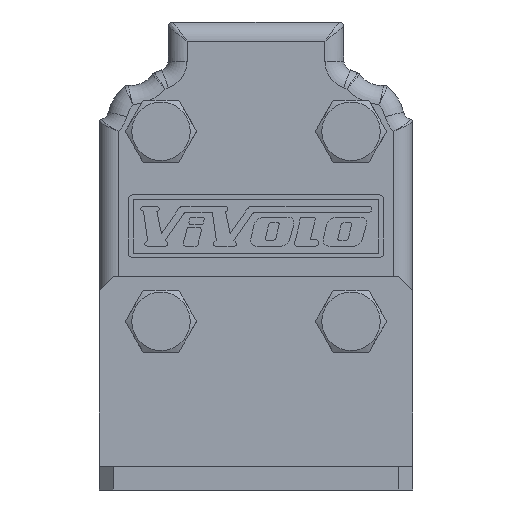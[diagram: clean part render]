
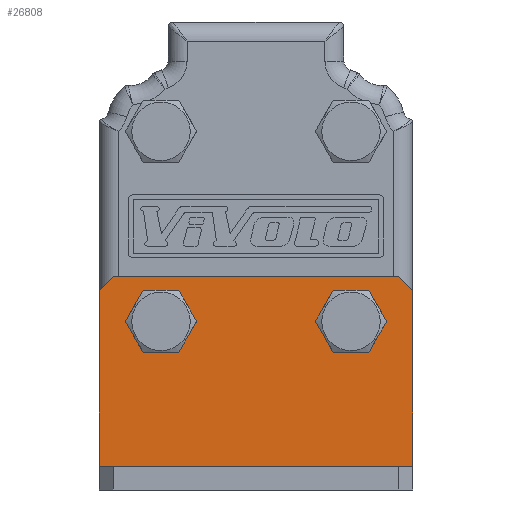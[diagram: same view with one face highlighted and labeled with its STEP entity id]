
A CAD part, front view. The second image highlights one B-rep face of the part: STEP entity #26808.
In plain terms, the highlighted planar face has unit normal (0, -1, 0).
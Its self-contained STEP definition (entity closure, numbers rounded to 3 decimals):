
#859=CIRCLE('',#27995,6.);
#860=CIRCLE('',#27997,6.);
#2253=LINE('',#37771,#3881);
#2260=LINE('',#37794,#3888);
#2261=LINE('',#37796,#3889);
#2262=LINE('',#37798,#3890);
#2263=LINE('',#37800,#3891);
#2264=LINE('',#37802,#3892);
#3881=VECTOR('',#30881,1000.);
#3888=VECTOR('',#30900,1000.);
#3889=VECTOR('',#30901,1000.);
#3890=VECTOR('',#30902,1000.);
#3891=VECTOR('',#30903,1000.);
#3892=VECTOR('',#30904,1000.);
#6101=ORIENTED_EDGE('',*,*,#11458,.T.);
#6102=ORIENTED_EDGE('',*,*,#11457,.T.);
#6103=ORIENTED_EDGE('',*,*,#11520,.F.);
#6104=ORIENTED_EDGE('',*,*,#11509,.T.);
#6105=ORIENTED_EDGE('',*,*,#11521,.F.);
#6106=ORIENTED_EDGE('',*,*,#11522,.F.);
#6107=ORIENTED_EDGE('',*,*,#11523,.F.);
#6108=ORIENTED_EDGE('',*,*,#11524,.F.);
#11457=EDGE_CURVE('',#14251,#14251,#859,.T.);
#11458=EDGE_CURVE('',#14252,#14252,#860,.T.);
#11509=EDGE_CURVE('',#14281,#14282,#2253,.T.);
#11520=EDGE_CURVE('',#14281,#14291,#2260,.T.);
#11521=EDGE_CURVE('',#14292,#14282,#2261,.T.);
#11522=EDGE_CURVE('',#14293,#14292,#2262,.T.);
#11523=EDGE_CURVE('',#14294,#14293,#2263,.T.);
#11524=EDGE_CURVE('',#14291,#14294,#2264,.T.);
#14251=VERTEX_POINT('',#37665);
#14252=VERTEX_POINT('',#37668);
#14281=VERTEX_POINT('',#37772);
#14282=VERTEX_POINT('',#37773);
#14291=VERTEX_POINT('',#37795);
#14292=VERTEX_POINT('',#37797);
#14293=VERTEX_POINT('',#37799);
#14294=VERTEX_POINT('',#37801);
#16181=EDGE_LOOP('',(#6101));
#16182=EDGE_LOOP('',(#6102));
#16183=EDGE_LOOP('',(#6103,#6104,#6105,#6106,#6107,#6108));
#17399=FACE_BOUND('',#16181,.T.);
#17400=FACE_BOUND('',#16182,.T.);
#17401=FACE_BOUND('',#16183,.T.);
#18541=PLANE('',#28031);
#26808=ADVANCED_FACE('',(#17399,#17400,#17401),#18541,.F.);
#27995=AXIS2_PLACEMENT_3D('',#37664,#30773,#30774);
#27997=AXIS2_PLACEMENT_3D('',#37667,#30777,#30778);
#28031=AXIS2_PLACEMENT_3D('',#37793,#30898,#30899);
#30773=DIRECTION('',(0.,1.,0.));
#30774=DIRECTION('',(1.,0.,0.));
#30777=DIRECTION('',(0.,1.,0.));
#30778=DIRECTION('',(1.,0.,0.));
#30881=DIRECTION('',(1.,0.,0.));
#30898=DIRECTION('',(0.,1.,0.));
#30899=DIRECTION('',(0.,0.,1.));
#30900=DIRECTION('',(0.,0.,1.));
#30901=DIRECTION('',(0.,0.,-1.));
#30902=DIRECTION('',(0.707,0.,-0.707));
#30903=DIRECTION('',(1.,0.,0.));
#30904=DIRECTION('',(0.707,0.,0.707));
#37664=CARTESIAN_POINT('',(20.,-5.,-20.));
#37665=CARTESIAN_POINT('',(26.,-5.,-20.));
#37667=CARTESIAN_POINT('',(-20.,-5.,-20.));
#37668=CARTESIAN_POINT('',(-14.,-5.,-20.));
#37771=CARTESIAN_POINT('',(33.,-5.,-50.5));
#37772=CARTESIAN_POINT('',(-33.,-5.,-50.5));
#37773=CARTESIAN_POINT('',(33.,-5.,-50.5));
#37793=CARTESIAN_POINT('',(33.,-5.,-55.5));
#37794=CARTESIAN_POINT('',(-33.,-5.,-55.5));
#37795=CARTESIAN_POINT('',(-33.,-5.,-13.5));
#37796=CARTESIAN_POINT('',(33.,-5.,-13.5));
#37797=CARTESIAN_POINT('',(33.,-5.,-13.5));
#37798=CARTESIAN_POINT('',(30.,-5.,-10.5));
#37799=CARTESIAN_POINT('',(30.,-5.,-10.5));
#37800=CARTESIAN_POINT('',(30.,-5.,-10.5));
#37801=CARTESIAN_POINT('',(-30.,-5.,-10.5));
#37802=CARTESIAN_POINT('',(-33.,-5.,-13.5));
